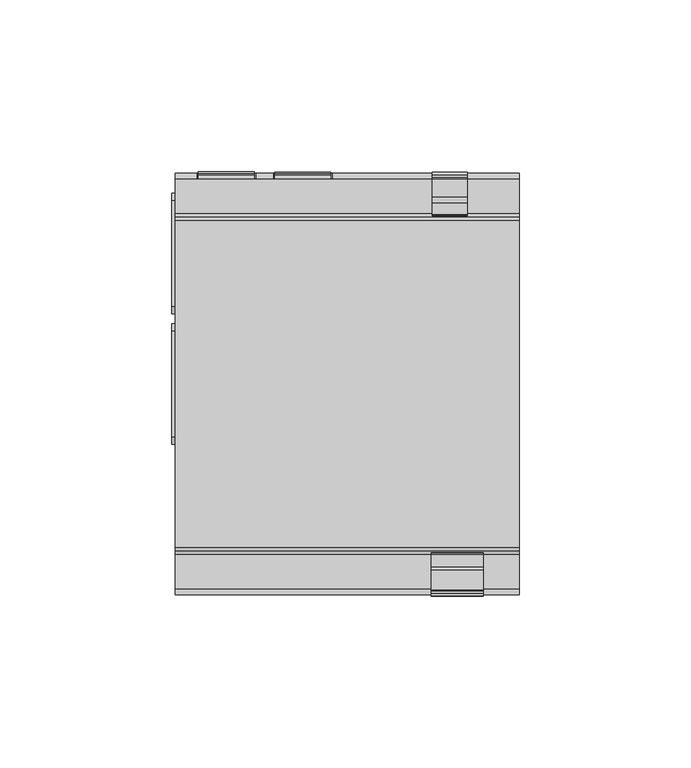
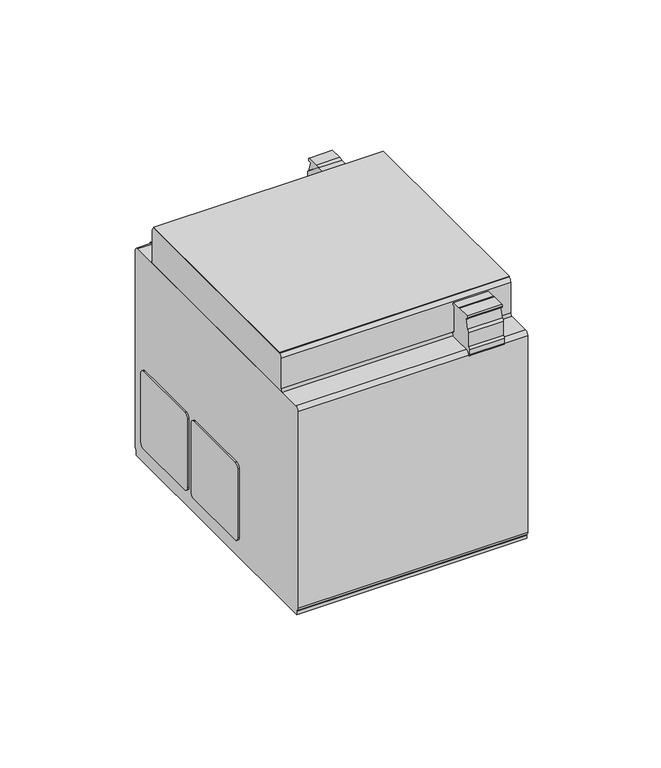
"""IFC4 building model written with IfcOpenShell, lengths in millimetres: proxy geometry, SDC-M 12V 3G DIN2 RS : SDC-M 12V 3G DIN2 RS."""

from ifc_helpers import new_model, si_unit, point, frame, frame_2d, origin, place, context, project, spatial, polyline, circle_curve, trimmed, segment, composite_curve, outline, extrude, faceted_brep, source, transform, mapped, element, save
from ifc_brep_helpers import plane_surface, cylinder_surface, advanced_brep


def electrical_equipment_22382a5e(model_context):
    return source(origin(), model_context, "Body", "SolidModel", [
        faceted_brep([(-50.3146317, -40.2597523, 112.75), (49.6853683, -40.2597523, 112.75), (49.6853683, 54.7402477, 112.75), (-50.3146317, 54.7402477, 112.75), (-50.3146317, 54.7402477, 112.5), (49.6853683, 54.7402477, 112.5), (49.6853683, 53.9402477, 112.5), (49.6853683, -39.5772719, 112.5), (49.6853683, -40.2597523, 112.5), (-50.3146317, -40.2597523, 112.5), (-50.3146317, -39.5772719, 112.5), (-50.3146317, 53.9402477, 112.5)], [[[0, 1, 2, 3]], [[4, 5, 6, 7, 8, 9, 10, 11]], [[1, 0, 9, 8]], [[2, 1, 8, 7, 6, 5]], [[3, 2, 5, 4]], [[0, 3, 4, 11, 10, 9]]]),
        extrude(outline(composite_curve([segment(polyline([(56.7402477, 95.6), (-42.2597523, 95.6)]), True, "CONTINUOUS"), segment(trimmed(circle_curve(frame_2d((-42.2597523, 96.6)), 1.0), [point((-42.2597523, 95.6))], [point((-41.2597523, 96.6))], True, "CARTESIAN"), True, "CONTINUOUS"), segment(polyline([(-41.2597523, 96.6), (-41.2597523, 110.6314162)]), True, "CONTINUOUS"), segment(trimmed(circle_curve(frame_2d((-39.443734, 110.6880139)), 1.8169001), [point((-41.2597523, 110.6314162))], [point((-39.5772719, 112.5))], False, "CARTESIAN"), True, "CONTINUOUS"), segment(polyline([(-39.5772719, 112.5), (53.9402477, 112.5)]), True, "CONTINUOUS"), segment(trimmed(circle_curve(frame_2d((53.9402477, 110.7)), 1.8), [point((53.9402477, 112.5))], [point((55.7402477, 110.7))], False, "CARTESIAN"), True, "CONTINUOUS"), segment(polyline([(55.7402477, 110.7), (55.7402477, 96.6)]), True, "CONTINUOUS"), segment(trimmed(circle_curve(frame_2d((56.7402477, 96.6)), 1.0), [point((55.7402477, 96.6))], [point((56.7402477, 95.6))], True, "CARTESIAN"), True, "CONTINUOUS")], self_intersect=False)), frame((-50.3146317, 0.0, 0.0), z_axis=(1.0, 0.0, 0.0), x_axis=(0.0, 1.0, 0.0)), (0.0, 0.0, 1.0), 100.0),
        extrude(outline(composite_curve([segment(polyline([(61.5925701, 111.07), (66.977955, 111.07)]), True, "CONTINUOUS"), segment(trimmed(circle_curve(frame_2d((66.2861586, 110.3582814)), 0.992535), [point((66.977955, 111.07))], [point((66.8892656, 109.57))], False, "CARTESIAN"), True, "CONTINUOUS"), segment(polyline([(66.8892656, 109.57), (65.877955, 109.57), (67.0309554, 105.2669438)]), True, "CONTINUOUS"), segment(trimmed(circle_curve(frame_2d((66.4695429, 103.84)), 1.5334122), [point((67.0309554, 105.2669438))], [point((68.002955, 103.84))], False, "CARTESIAN"), True, "CONTINUOUS"), segment(polyline([(68.002955, 103.84), (68.002955, 97.6942542)]), True, "CONTINUOUS"), segment(trimmed(circle_curve(frame_2d((69.5410007, 98.4684748)), 1.7219181), [point((68.002955, 97.6942542))], [point((68.8058426, 96.9113799))], True, "CARTESIAN"), True, "CONTINUOUS"), segment(polyline([(68.8058426, 96.9113799), (68.8058426, 93.6358813), (67.297955, 93.37), (58.2813391, 93.37), (56.197955, 93.6053488), (56.197955, 96.6274333)]), True, "CONTINUOUS"), segment(trimmed(circle_curve(frame_2d((57.0691961, 96.4948595)), 0.88127), [point((56.197955, 96.6274333))], [point((57.172955, 97.37))], False, "CARTESIAN"), True, "CONTINUOUS"), segment(polyline([(57.172955, 97.37), (57.172955, 108.5084691)]), True, "CONTINUOUS"), segment(trimmed(circle_curve(frame_2d((56.5356003, 108.8574423)), 0.7266384), [point((57.172955, 108.5084691))], [point((56.677955, 109.57))], True, "CARTESIAN"), True, "CONTINUOUS"), segment(trimmed(circle_curve(frame_2d((57.137021, 110.1612762)), 0.7485647), [point((56.677955, 109.57))], [point((56.677955, 110.7525524))], False, "CARTESIAN"), True, "CONTINUOUS"), segment(polyline([(56.677955, 110.7525524), (60.0085378, 110.7525524)]), True, "CONTINUOUS"), segment(trimmed(circle_curve(frame_2d((61.5925701, 106.9591927)), 4.1108073), [point((60.0085378, 110.7525524))], [point((61.5925701, 111.07))], False, "CARTESIAN"), True, "CONTINUOUS")], self_intersect=False), holes=[composite_curve([segment(polyline([(68.5402477, 93.9367188), (68.5402477, 95.6), (66.7402477, 95.6)]), True, "CONTINUOUS"), segment(trimmed(circle_curve(frame_2d((66.7402477, 93.794381)), 1.805619), [point((66.7402477, 95.6))], [point((68.5402477, 93.9367188))], False, "CARTESIAN"), True, "CONTINUOUS")], self_intersect=False)]), frame((24.3953683, 0.0, 0.0), z_axis=(1.0, 0.0, 0.0), x_axis=(0.0, 1.0, 0.0)), (0.0, 0.0, 1.0), 10.2),
        advanced_brep(
        [(-43.6073283, 68.5402477, 93.9367188), (-27.3073283, 68.5402477, 93.9367188), (-27.3073283, 68.5402477, 94.9), (-43.6073283, 68.5402477, 94.9), (-43.6073283, 68.1677863, 94.9), (-27.3073283, 68.1677863, 94.9), (-27.3073283, 53.0602477, 81.4), (-27.3073283, 53.0602477, 94.9), (-43.6073283, 53.0602477, 94.9), (-43.6073283, 53.0602477, 81.4), (-39.1073283, 53.0602477, 93.7), (-31.8073283, 53.0602477, 93.7), (-31.8073283, 53.0602477, 91.04), (-29.3073283, 53.0602477, 91.04), (-29.3073283, 53.0602477, 83.75), (-41.6073283, 53.0602477, 83.75), (-41.6073283, 53.0602477, 91.04), (-39.1073283, 53.0602477, 91.04), (-27.3073283, 68.9402477, 81.4), (-43.6073283, 68.9402477, 81.4), (-43.6073283, 68.9402477, 94.9), (-27.3073283, 68.9402477, 94.9), (-39.1073283, 68.9402477, 93.7), (-39.1073283, 68.9402477, 91.04), (-41.6073283, 68.9402477, 91.04), (-41.6073283, 68.9402477, 83.75), (-29.3073283, 68.9402477, 83.75), (-29.3073283, 68.9402477, 91.04), (-31.8073283, 68.9402477, 91.04), (-31.8073283, 68.9402477, 93.7)],
        [
            (0, 1),
            (1, 2),
            (2, 3),
            (3, 0),
            (0, 4, circle_curve(frame((-43.6073283, 66.7402477, 93.794381), z_axis=(1.0, 0.0, 0.0), x_axis=(0.0, 1.0, 0.0)), 1.805619)),
            (4, 5),
            (5, 1, circle_curve(frame((-27.3073283, 66.7402477, 93.794381), z_axis=(-1.0, 0.0, 0.0), x_axis=(0.0, 1.0, 0.0)), 1.805619)),
            (6, 7),
            (7, 8),
            (8, 9),
            (9, 6),
            (10, 11),
            (11, 12),
            (12, 13),
            (13, 14),
            (14, 15),
            (15, 16),
            (16, 17),
            (17, 10),
            (18, 19),
            (19, 20),
            (20, 21),
            (21, 18),
            (22, 23),
            (23, 24),
            (24, 25),
            (25, 26),
            (26, 27),
            (27, 28),
            (28, 29),
            (29, 22),
            (9, 19),
            (18, 6),
            (8, 4),
            (3, 20),
            (7, 5),
            (2, 21),
            (17, 23),
            (22, 10),
            (16, 24),
            (15, 25),
            (14, 26),
            (13, 27),
            (12, 28),
            (11, 29),
        ],
        [
            plane_surface(frame((-50.3146317, 68.5402477, 95.6), z_axis=(0.0, -1.0, 0.0), x_axis=(1.0, 0.0, 0.0))),
            cylinder_surface(frame((49.6853683, 66.7402477, 93.794381), z_axis=(1.0, 0.0, 0.0), x_axis=(0.0, 1.0, 0.0)), 1.805619),
            plane_surface(frame((-27.3073283, 53.0602477, 81.4), z_axis=(0.0, -1.0, 0.0), x_axis=(1.0, 0.0, 0.0))),
            plane_surface(frame((-27.3073283, 68.9402477, 81.4), z_axis=(0.0, 1.0, 0.0), x_axis=(-1.0, 0.0, 0.0))),
            plane_surface(frame((-27.3073283, 68.9402477, 81.4), z_axis=(0.0, 0.0, -1.0), x_axis=(0.0, -1.0, 0.0))),
            plane_surface(frame((-43.6073283, 68.9402477, 81.4), z_axis=(-1.0, 0.0, 0.0), x_axis=(0.0, -1.0, 0.0))),
            plane_surface(frame((-43.6073283, 68.9402477, 94.9), z_axis=(0.0, 0.0, 1.0), x_axis=(0.0, -1.0, 0.0))),
            plane_surface(frame((-27.3073283, 68.9402477, 94.9), z_axis=(1.0, 0.0, 0.0), x_axis=(0.0, -1.0, 0.0))),
            plane_surface(frame((-39.1073283, 68.9402477, 93.7), z_axis=(1.0, 0.0, 0.0), x_axis=(0.0, -1.0, 0.0))),
            plane_surface(frame((-39.1073283, 68.9402477, 91.04), z_axis=(0.0, 0.0, -1.0), x_axis=(0.0, -1.0, 0.0))),
            plane_surface(frame((-41.6073283, 68.9402477, 91.04), z_axis=(1.0, 0.0, 0.0), x_axis=(0.0, -1.0, 0.0))),
            plane_surface(frame((-41.6073283, 68.9402477, 83.75), z_axis=(0.0, 0.0, 1.0), x_axis=(0.0, -1.0, 0.0))),
            plane_surface(frame((-29.3073283, 68.9402477, 83.75), z_axis=(-1.0, 0.0, 0.0), x_axis=(0.0, -1.0, 0.0))),
            plane_surface(frame((-29.3073283, 68.9402477, 91.04), z_axis=(0.0, 0.0, -1.0), x_axis=(0.0, -1.0, 0.0))),
            plane_surface(frame((-31.8073283, 68.9402477, 91.04), z_axis=(-1.0, 0.0, 0.0), x_axis=(0.0, -1.0, 0.0))),
            plane_surface(frame((-31.8073283, 68.9402477, 93.7), z_axis=(0.0, 0.0, -1.0), x_axis=(0.0, -1.0, 0.0))),
        ],
        [
            (0, [[1, 2, 3, 4]]),
            (1, [[-1, 5, 6, 7]]),
            (2, [[8, 9, 10, 11], [12, 13, 14, 15, 16, 17, 18, 19]]),
            (3, [[20, 21, 22, 23], [24, 25, 26, 27, 28, 29, 30, 31]]),
            (4, [[-11, 32, -20, 33]]),
            (5, [[-10, 34, -5, -4, 35, -21, -32]]),
            (6, [[-9, 36, -6, -34]]),
            (6, [[-22, -35, -3, 37]]),
            (7, [[-8, -33, -23, -37, -2, -7, -36]]),
            (8, [[-19, 38, -24, 39]]),
            (9, [[-18, 40, -25, -38]]),
            (10, [[-17, 41, -26, -40]]),
            (11, [[-16, 42, -27, -41]]),
            (12, [[-15, 43, -28, -42]]),
            (13, [[-14, 44, -29, -43]]),
            (14, [[-13, 45, -30, -44]]),
            (15, [[-12, -39, -31, -45]]),
        ],
    ),
        advanced_brep(
        [(-21.3146317, 68.5402477, 93.9367188), (-5.0146317, 68.5402477, 93.9367188), (-5.0146317, 68.5402477, 94.9), (-21.3146317, 68.5402477, 94.9), (-21.3146317, 68.1677863, 94.9), (-5.0146317, 68.1677863, 94.9), (-5.0146317, 53.0602477, 81.4), (-5.0146317, 53.0602477, 94.9), (-21.3146317, 53.0602477, 94.9), (-21.3146317, 53.0602477, 81.4), (-16.8146317, 53.0602477, 93.7), (-9.5146317, 53.0602477, 93.7), (-9.5146317, 53.0602477, 91.04), (-7.0146317, 53.0602477, 91.04), (-7.0146317, 53.0602477, 83.75), (-19.3146317, 53.0602477, 83.75), (-19.3146317, 53.0602477, 91.04), (-16.8146317, 53.0602477, 91.04), (-5.0146317, 68.8602477, 81.4), (-21.3146317, 68.8602477, 81.4), (-21.3146317, 68.8602477, 94.9), (-5.0146317, 68.8602477, 94.9), (-16.8146317, 68.8602477, 93.7), (-16.8146317, 68.8602477, 91.04), (-19.3146317, 68.8602477, 91.04), (-19.3146317, 68.8602477, 83.75), (-7.0146317, 68.8602477, 83.75), (-7.0146317, 68.8602477, 91.04), (-9.5146317, 68.8602477, 91.04), (-9.5146317, 68.8602477, 93.7)],
        [
            (0, 1),
            (1, 2),
            (2, 3),
            (3, 0),
            (0, 4, circle_curve(frame((-21.3146317, 66.7402477, 93.794381), z_axis=(1.0, 0.0, 0.0), x_axis=(0.0, 1.0, 0.0)), 1.805619)),
            (4, 5),
            (5, 1, circle_curve(frame((-5.0146317, 66.7402477, 93.794381), z_axis=(-1.0, 0.0, 0.0), x_axis=(0.0, 1.0, 0.0)), 1.805619)),
            (6, 7),
            (7, 8),
            (8, 9),
            (9, 6),
            (10, 11),
            (11, 12),
            (12, 13),
            (13, 14),
            (14, 15),
            (15, 16),
            (16, 17),
            (17, 10),
            (18, 19),
            (19, 20),
            (20, 21),
            (21, 18),
            (22, 23),
            (23, 24),
            (24, 25),
            (25, 26),
            (26, 27),
            (27, 28),
            (28, 29),
            (29, 22),
            (9, 19),
            (18, 6),
            (8, 4),
            (3, 20),
            (7, 5),
            (2, 21),
            (17, 23),
            (22, 10),
            (16, 24),
            (15, 25),
            (14, 26),
            (13, 27),
            (12, 28),
            (11, 29),
        ],
        [
            plane_surface(frame((-50.3146317, 68.5402477, 95.6), z_axis=(0.0, -1.0, 0.0), x_axis=(1.0, 0.0, 0.0))),
            cylinder_surface(frame((49.6853683, 66.7402477, 93.794381), z_axis=(1.0, 0.0, 0.0), x_axis=(0.0, 1.0, 0.0)), 1.805619),
            plane_surface(frame((-5.0146317, 53.0602477, 81.4), z_axis=(0.0, -1.0, 0.0), x_axis=(1.0, 0.0, 0.0))),
            plane_surface(frame((-5.0146317, 68.8602477, 81.4), z_axis=(0.0, 1.0, 0.0), x_axis=(-1.0, 0.0, 0.0))),
            plane_surface(frame((-5.0146317, 68.8602477, 81.4), z_axis=(0.0, 0.0, -1.0), x_axis=(0.0, -1.0, 0.0))),
            plane_surface(frame((-21.3146317, 68.8602477, 81.4), z_axis=(-1.0, 0.0, 0.0), x_axis=(0.0, -1.0, 0.0))),
            plane_surface(frame((-21.3146317, 68.8602477, 94.9), z_axis=(0.0, 0.0, 1.0), x_axis=(0.0, -1.0, 0.0))),
            plane_surface(frame((-5.0146317, 68.8602477, 94.9), z_axis=(1.0, 0.0, 0.0), x_axis=(0.0, -1.0, 0.0))),
            plane_surface(frame((-16.8146317, 68.8602477, 93.7), z_axis=(1.0, 0.0, 0.0), x_axis=(0.0, -1.0, 0.0))),
            plane_surface(frame((-16.8146317, 68.8602477, 91.04), z_axis=(0.0, 0.0, -1.0), x_axis=(0.0, -1.0, 0.0))),
            plane_surface(frame((-19.3146317, 68.8602477, 91.04), z_axis=(1.0, 0.0, 0.0), x_axis=(0.0, -1.0, 0.0))),
            plane_surface(frame((-19.3146317, 68.8602477, 83.75), z_axis=(0.0, 0.0, 1.0), x_axis=(0.0, -1.0, 0.0))),
            plane_surface(frame((-7.0146317, 68.8602477, 83.75), z_axis=(-1.0, 0.0, 0.0), x_axis=(0.0, -1.0, 0.0))),
            plane_surface(frame((-7.0146317, 68.8602477, 91.04), z_axis=(0.0, 0.0, -1.0), x_axis=(0.0, -1.0, 0.0))),
            plane_surface(frame((-9.5146317, 68.8602477, 91.04), z_axis=(-1.0, 0.0, 0.0), x_axis=(0.0, -1.0, 0.0))),
            plane_surface(frame((-9.5146317, 68.8602477, 93.7), z_axis=(0.0, 0.0, -1.0), x_axis=(0.0, -1.0, 0.0))),
        ],
        [
            (0, [[1, 2, 3, 4]]),
            (1, [[-1, 5, 6, 7]]),
            (2, [[8, 9, 10, 11], [12, 13, 14, 15, 16, 17, 18, 19]]),
            (3, [[20, 21, 22, 23], [24, 25, 26, 27, 28, 29, 30, 31]]),
            (4, [[-11, 32, -20, 33]]),
            (5, [[-10, 34, -5, -4, 35, -21, -32]]),
            (6, [[-9, 36, -6, -34]]),
            (6, [[-22, -35, -3, 37]]),
            (7, [[-8, -33, -23, -37, -2, -7, -36]]),
            (8, [[-19, 38, -24, 39]]),
            (9, [[-18, 40, -25, -38]]),
            (10, [[-17, 41, -26, -40]]),
            (11, [[-16, 42, -27, -41]]),
            (12, [[-15, 43, -28, -42]]),
            (13, [[-14, 44, -29, -43]]),
            (14, [[-13, 45, -30, -44]]),
            (15, [[-12, -39, -31, -45]]),
        ],
    ),
        extrude(outline(composite_curve([segment(polyline([(-46.0261161, 110.77), (-42.3671575, 110.77)]), True, "CONTINUOUS"), segment(trimmed(circle_curve(frame_2d((-42.7941878, 110.1176491)), 0.7796901), [point((-42.3671575, 110.77))], [point((-42.0310165, 109.9580051))], False, "CARTESIAN"), True, "CONTINUOUS"), segment(trimmed(circle_curve(frame_2d((-42.6279456, 110.2238127)), 0.6534355), [point((-42.0310165, 109.9580051))], [point((-42.8224597, 109.6))], False, "CARTESIAN"), True, "CONTINUOUS"), segment(polyline([(-42.8224597, 109.6), (-42.8224597, 97.4)]), True, "CONTINUOUS"), segment(trimmed(circle_curve(frame_2d((-42.6187437, 96.6158374)), 0.8101921), [point((-42.8224597, 97.4))], [point((-41.8474597, 96.8638943))], False, "CARTESIAN"), True, "CONTINUOUS"), segment(polyline([(-41.8474597, 96.8638943), (-41.8474597, 94.4), (-52.2597523, 94.4), (-53.2129408, 93.4468115), (-54.0570729, 93.575975)]), True, "CONTINUOUS"), segment(trimmed(circle_curve(frame_2d((-53.9812927, 94.071227)), 0.5010162), [point((-54.0570729, 93.575975))], [point((-54.4474597, 94.2548177))], False, "CARTESIAN"), True, "CONTINUOUS"), segment(polyline([(-54.4474597, 94.2548177), (-54.4474597, 96.605)]), True, "CONTINUOUS"), segment(trimmed(circle_curve(frame_2d((-53.6524597, 96.605)), 0.795), [point((-54.4474597, 96.605))], [point((-53.6524597, 97.4))], False, "CARTESIAN"), True, "CONTINUOUS"), segment(polyline([(-53.6524597, 97.4), (-53.6524597, 103.9565594)]), True, "CONTINUOUS"), segment(trimmed(circle_curve(frame_2d((-52.5710746, 103.9565594)), 1.0813851), [point((-53.6524597, 103.9565594))], [point((-52.7540361, 105.0223543))], False, "CARTESIAN"), True, "CONTINUOUS"), segment(polyline([(-52.7540361, 105.0223543), (-51.5274597, 109.6), (-52.4608777, 109.6)]), True, "CONTINUOUS"), segment(trimmed(circle_curve(frame_2d((-52.2607449, 110.2407053)), 0.671235), [point((-52.4608777, 109.6))], [point((-52.9274597, 110.3184733))], False, "CARTESIAN"), True, "CONTINUOUS"), segment(trimmed(circle_curve(frame_2d((-52.11704, 110.4557253)), 0.82196), [point((-52.9274597, 110.3184733))], [point((-52.6274597, 111.1))], False, "CARTESIAN"), True, "CONTINUOUS"), segment(polyline([(-52.6274597, 111.1), (-46.8049449, 111.1)]), True, "CONTINUOUS"), segment(trimmed(circle_curve(frame_2d((-46.8049449, 110.0159481)), 1.0840519), [point((-46.8049449, 111.1))], [point((-46.0261161, 110.77))], False, "CARTESIAN"), True, "CONTINUOUS")], self_intersect=False)), frame((24.1403683, 0.0, 0.0), z_axis=(1.0, 0.0, 0.0), x_axis=(0.0, 1.0, 0.0)), (0.0, 0.0, 1.0), 15.1751992),
        advanced_brep(
        [(-4.5146317, 66.7402477, 95.6), (-21.8146317, 66.7402477, 95.6), (-26.8146317, 66.7402477, 95.6), (-44.1146317, 66.7402477, 95.6), (-50.3146317, 66.7402477, 95.6), (-50.3146317, -52.3763019, 95.6), (49.6853683, -52.3763019, 95.6), (49.6853683, 66.7402477, 95.6), (49.6853683, 67.7402477, 0.0), (49.6853683, -53.2597523, 0.0), (-50.3146317, -53.2597523, 0.0), (-50.3146317, 67.7402477, 0.0), (49.6853683, 68.5402477, 3.3), (-50.3146317, 68.5402477, 3.3), (-50.3146317, 68.5402477, 93.8), (-44.1146317, 68.5402477, 93.8), (-44.1146317, 68.5402477, 80.5), (-26.8146317, 68.5402477, 80.5), (-26.8146317, 68.5402477, 93.8), (-21.8146317, 68.5402477, 93.8), (-21.8146317, 68.5402477, 80.5), (-4.5146317, 68.5402477, 80.5), (-4.5146317, 68.5402477, 93.8), (49.6853683, 68.5402477, 93.8), (-50.3146317, -53.2597523, 1.5), (-50.3146317, -52.2597523, 1.5), (-50.3146317, -54.0597523, 3.3), (-50.3146317, -54.0597523, 93.9165496), (-50.3146317, 66.7402477, 1.5), (-50.3146317, 67.7402477, 1.5), (49.6853683, -54.0597523, 3.3), (49.6853683, -54.0597523, 93.9165496), (49.6853683, 67.7402477, 1.5), (49.6853683, 66.7402477, 1.5), (49.6853683, -52.2597523, 1.5), (49.6853683, -53.2597523, 1.5), (-4.5146317, 66.7402477, 80.5), (-21.8146317, 66.7402477, 80.5), (-44.1146317, 66.7402477, 80.5), (-26.8146317, 66.7402477, 80.5)],
        [
            (0, 1),
            (1, 2),
            (2, 3),
            (3, 4),
            (4, 5),
            (5, 6),
            (6, 7),
            (7, 0),
            (8, 9),
            (9, 10),
            (10, 11),
            (11, 8),
            (12, 13),
            (13, 14),
            (14, 15),
            (15, 16),
            (16, 17),
            (17, 18),
            (18, 19),
            (19, 20),
            (20, 21),
            (21, 22),
            (22, 23),
            (23, 12),
            (10, 24),
            (24, 25),
            (25, 26, circle_curve(frame((-50.3146317, -52.2597523, 3.3), z_axis=(-1.0, 0.0, 0.0), x_axis=(0.0, 1.0, 0.0)), 1.8)),
            (26, 27),
            (27, 5, circle_curve(frame((-50.3146317, -52.3763019, 93.9165496), z_axis=(-1.0, 0.0, 0.0), x_axis=(0.0, 1.0, 0.0)), 1.6834504)),
            (4, 14, circle_curve(frame((-50.3146317, 66.7402477, 93.8), z_axis=(-1.0, 0.0, 0.0), x_axis=(0.0, 1.0, 0.0)), 1.8)),
            (13, 28, circle_curve(frame((-50.3146317, 66.7402477, 3.3), z_axis=(-1.0, 0.0, 0.0), x_axis=(0.0, 1.0, 0.0)), 1.8)),
            (28, 29),
            (29, 11),
            (26, 30),
            (30, 31),
            (31, 27),
            (8, 32),
            (32, 33),
            (33, 12, circle_curve(frame((49.6853683, 66.7402477, 3.3), z_axis=(1.0, 0.0, 0.0), x_axis=(0.0, 1.0, 0.0)), 1.8)),
            (23, 7, circle_curve(frame((49.6853683, 66.7402477, 93.8), z_axis=(1.0, 0.0, 0.0), x_axis=(0.0, 1.0, 0.0)), 1.8)),
            (6, 31, circle_curve(frame((49.6853683, -52.3763019, 93.9165496), z_axis=(1.0, 0.0, 0.0), x_axis=(0.0, 1.0, 0.0)), 1.6834504)),
            (30, 34, circle_curve(frame((49.6853683, -52.2597523, 3.3), z_axis=(1.0, 0.0, 0.0), x_axis=(0.0, 1.0, 0.0)), 1.8)),
            (34, 35),
            (35, 9),
            (25, 34),
            (24, 35),
            (29, 32),
            (28, 33),
            (0, 36),
            (36, 37),
            (37, 1),
            (38, 3),
            (2, 39),
            (39, 38),
            (37, 20),
            (19, 1, circle_curve(frame((-21.8146317, 66.7402477, 93.8), z_axis=(1.0, 0.0, 0.0), x_axis=(0.0, 1.0, 0.0)), 1.8)),
            (36, 21),
            (0, 22, circle_curve(frame((-4.5146317, 66.7402477, 93.8), z_axis=(-1.0, 0.0, 0.0), x_axis=(0.0, 1.0, 0.0)), 1.8)),
            (39, 17),
            (16, 38),
            (2, 18, circle_curve(frame((-26.8146317, 66.7402477, 93.8), z_axis=(-1.0, 0.0, 0.0), x_axis=(0.0, 1.0, 0.0)), 1.8)),
            (15, 3, circle_curve(frame((-44.1146317, 66.7402477, 93.8), z_axis=(1.0, 0.0, 0.0), x_axis=(0.0, 1.0, 0.0)), 1.8)),
        ],
        [
            plane_surface(frame((-50.3146317, 68.5402477, 95.6), z_axis=(0.0, 0.0, 1.0), x_axis=(-1.0, 0.0, 0.0))),
            plane_surface(frame((-50.3146317, 68.5402477, 0.0), z_axis=(0.0, 0.0, -1.0), x_axis=(1.0, 0.0, 0.0))),
            plane_surface(frame((49.6853683, 68.5402477, 95.6), z_axis=(0.0, 1.0, 0.0), x_axis=(0.0, 0.0, -1.0))),
            plane_surface(frame((-50.3146317, 68.5402477, 95.6), z_axis=(-1.0, 0.0, 0.0), x_axis=(0.0, 0.0, -1.0))),
            plane_surface(frame((-50.3146317, -54.0597523, 95.6), z_axis=(0.0, -1.0, 0.0), x_axis=(0.0, 0.0, -1.0))),
            plane_surface(frame((49.6853683, -54.0597523, 95.6), z_axis=(1.0, 0.0, 0.0), x_axis=(0.0, 0.0, -1.0))),
            cylinder_surface(frame((49.6853683, -52.2597523, 3.3), z_axis=(1.0, 0.0, 0.0), x_axis=(0.0, 1.0, 0.0)), 1.8),
            plane_surface(frame((-50.3146317, -52.2597523, 1.5), z_axis=(0.0, 0.0, 1.0), x_axis=(1.0, 0.0, 0.0))),
            plane_surface(frame((-50.3146317, -53.2597523, 1.5), z_axis=(0.0, -1.0, 0.0), x_axis=(1.0, 0.0, 0.0))),
            plane_surface(frame((-50.3146317, 67.7402477, 0.0), z_axis=(0.0, 1.0, 0.0), x_axis=(1.0, 0.0, 0.0))),
            plane_surface(frame((-50.3146317, 67.7402477, 1.5), z_axis=(0.0, 0.0, 1.0), x_axis=(1.0, 0.0, 0.0))),
            cylinder_surface(frame((49.6853683, 66.7402477, 3.3), z_axis=(1.0, 0.0, 0.0), x_axis=(0.0, 1.0, 0.0)), 1.8),
            plane_surface(frame((-21.8146317, 66.7402477, 95.6), z_axis=(0.0, 1.0, 0.0), x_axis=(0.0, 0.0, -1.0))),
            plane_surface(frame((-21.8146317, 66.7402477, 95.6), z_axis=(1.0, 0.0, 0.0), x_axis=(0.0, 1.0, 0.0))),
            plane_surface(frame((-21.8146317, 66.7402477, 80.5), z_axis=(0.0, 0.0, 1.0), x_axis=(0.0, 1.0, 0.0))),
            plane_surface(frame((-4.5146317, 66.7402477, 80.5), z_axis=(-1.0, 0.0, 0.0), x_axis=(0.0, 1.0, 0.0))),
            plane_surface(frame((-44.1146317, 66.7402477, 80.5), z_axis=(0.0, 0.0, 1.0), x_axis=(0.0, 1.0, 0.0))),
            plane_surface(frame((-26.8146317, 66.7402477, 80.5), z_axis=(-1.0, 0.0, 0.0), x_axis=(0.0, 1.0, 0.0))),
            plane_surface(frame((-44.1146317, 66.7402477, 95.6), z_axis=(1.0, 0.0, 0.0), x_axis=(0.0, 1.0, 0.0))),
            cylinder_surface(frame((49.6853683, -52.3763019, 93.9165496), z_axis=(1.0, 0.0, 0.0), x_axis=(0.0, 1.0, 0.0)), 1.6834504),
            cylinder_surface(frame((49.6853683, 66.7402477, 93.8), z_axis=(1.0, 0.0, 0.0), x_axis=(0.0, 1.0, 0.0)), 1.8),
        ],
        [
            (0, [[1, 2, 3, 4, 5, 6, 7, 8]]),
            (1, [[9, 10, 11, 12]]),
            (2, [[13, 14, 15, 16, 17, 18, 19, 20, 21, 22, 23, 24]]),
            (3, [[-11, 25, 26, 27, 28, 29, -5, 30, -14, 31, 32, 33]]),
            (4, [[34, 35, 36, -28]]),
            (5, [[-9, 37, 38, 39, -24, 40, -7, 41, -35, 42, 43, 44]]),
            (6, [[45, -42, -34, -27]]),
            (7, [[-45, -26, 46, -43]]),
            (8, [[-46, -25, -10, -44]]),
            (9, [[47, -37, -12, -33]]),
            (10, [[-47, -32, 48, -38]]),
            (11, [[-48, -31, -13, -39]]),
            (12, [[49, 50, 51, -1]]),
            (12, [[52, -3, 53, 54]]),
            (13, [[-51, 55, -20, 56]]),
            (14, [[-50, 57, -21, -55]]),
            (15, [[-49, 58, -22, -57]]),
            (16, [[-54, 59, -17, 60]]),
            (17, [[-53, 61, -18, -59]]),
            (18, [[-52, -60, -16, 62]]),
            (19, [[-6, -29, -36, -41]]),
            (20, [[-2, -56, -19, -61]]),
            (20, [[-4, -62, -15, -30]]),
            (20, [[-8, -40, -23, -58]]),
        ],
    ),
        extrude(outline(composite_curve([segment(trimmed(circle_curve(frame_2d((60.7402477, 41.125)), 2.0), [point((60.7402477, 43.125))], [point((62.7402477, 41.125))], False, "CARTESIAN"), True, "CONTINUOUS"), segment(polyline([(62.7402477, 41.125), (62.7402477, 9.5)]), True, "CONTINUOUS"), segment(trimmed(circle_curve(frame_2d((60.7402477, 9.5)), 2.0), [point((62.7402477, 9.5))], [point((60.7402477, 7.5))], False, "CARTESIAN"), True, "CONTINUOUS"), segment(polyline([(60.7402477, 7.5), (29.7402477, 7.5)]), True, "CONTINUOUS"), segment(trimmed(circle_curve(frame_2d((29.7402477, 9.5)), 2.0), [point((29.7402477, 7.5))], [point((27.7402477, 9.5))], False, "CARTESIAN"), True, "CONTINUOUS"), segment(polyline([(27.7402477, 9.5), (27.7402477, 41.125)]), True, "CONTINUOUS"), segment(trimmed(circle_curve(frame_2d((29.7402477, 41.125)), 2.0), [point((27.7402477, 41.125))], [point((29.7402477, 43.125))], False, "CARTESIAN"), True, "CONTINUOUS"), segment(polyline([(29.7402477, 43.125), (60.7402477, 43.125)]), True, "CONTINUOUS")], self_intersect=False)), frame((-51.3146317, 0.0, 0.0), z_axis=(1.0, 0.0, 0.0), x_axis=(0.0, 1.0, 0.0)), (0.0, 0.0, 1.0), 1.0),
        extrude(outline(composite_curve([segment(trimmed(circle_curve(frame_2d((22.7402477, 41.125)), 2.0), [point((22.7402477, 43.125))], [point((24.7402477, 41.125))], False, "CARTESIAN"), True, "CONTINUOUS"), segment(polyline([(24.7402477, 41.125), (24.7402477, 9.5)]), True, "CONTINUOUS"), segment(trimmed(circle_curve(frame_2d((22.7402477, 9.5)), 2.0), [point((24.7402477, 9.5))], [point((22.7402477, 7.5))], False, "CARTESIAN"), True, "CONTINUOUS"), segment(polyline([(22.7402477, 7.5), (-8.3609387, 7.5)]), True, "CONTINUOUS"), segment(trimmed(circle_curve(frame_2d((-8.3609387, 9.3988137)), 1.8988137), [point((-8.3609387, 7.5))], [point((-10.2597523, 9.3988137))], False, "CARTESIAN"), True, "CONTINUOUS"), segment(polyline([(-10.2597523, 9.3988137), (-10.2597523, 41.2599698)]), True, "CONTINUOUS"), segment(trimmed(circle_curve(frame_2d((-8.249553, 41.1091787)), 2.0158471), [point((-10.2597523, 41.2599698))], [point((-8.2393536, 43.125))], False, "CARTESIAN"), True, "CONTINUOUS"), segment(polyline([(-8.2393536, 43.125), (22.7402477, 43.125)]), True, "CONTINUOUS")], self_intersect=False)), frame((-51.3146317, 0.0, 0.0), z_axis=(1.0, 0.0, 0.0), x_axis=(0.0, 1.0, 0.0)), (0.0, 0.0, 1.0), 1.0),
        extrude(outline(composite_curve([segment(polyline([(-13.7597523, -8.0), (-13.7597523, -0.5380934)]), True, "CONTINUOUS"), segment(trimmed(circle_curve(frame_2d((-13.1780066, -0.5672452)), 0.5824757), [point((-13.7597523, -0.5380934))], [point((-13.0456783, 0.0))], False, "CARTESIAN"), True, "CONTINUOUS"), segment(polyline([(-13.0456783, 0.0), (35.7402477, 0.0)]), True, "CONTINUOUS"), segment(trimmed(circle_curve(frame_2d((35.6463032, -0.6038595)), 0.6111235), [point((35.7402477, 0.0))], [point((36.2402477, -0.7477409))], False, "CARTESIAN"), True, "CONTINUOUS"), segment(polyline([(36.2402477, -0.7477409), (36.2402477, -5.1112181)]), True, "CONTINUOUS"), segment(trimmed(circle_curve(frame_2d((35.4287101, -5.1979414)), 0.8161582), [point((36.2402477, -5.1112181))], [point((35.8306035, -5.9082905))], False, "CARTESIAN"), True, "CONTINUOUS"), segment(polyline([(35.8306035, -5.9082905), (33.8333207, -7.0382909)]), True, "CONTINUOUS"), segment(trimmed(circle_curve(frame_2d((33.4266558, -6.6086943)), 0.5915485), [point((33.8333207, -7.0382909))], [point((32.873562, -6.8184961))], False, "CARTESIAN"), True, "CONTINUOUS"), segment(polyline([(32.873562, -6.8184961), (32.4467757, -6.0792807), (23.8855848, -7.9333399)]), True, "CONTINUOUS"), segment(trimmed(circle_curve(frame_2d((24.5008559, -7.5482896)), 0.7258252), [point((23.8855848, -7.9333399))], [point((24.1734939, -6.9004808))], False, "CARTESIAN"), True, "CONTINUOUS"), segment(polyline([(24.1734939, -6.9004808), (33.1761702, -4.950811)]), True, "CONTINUOUS"), segment(trimmed(circle_curve(frame_2d((33.1761702, -4.2254055)), 0.7254055), [point((33.1761702, -4.950811))], [point((33.1761702, -3.5))], True, "CARTESIAN"), True, "CONTINUOUS"), segment(polyline([(33.1761702, -3.5), (-7.0948924, -3.5)]), True, "CONTINUOUS"), segment(trimmed(circle_curve(frame_2d((-7.2948634, -4.2130718)), 0.7405807), [point((-7.0948924, -3.5))], [point((-7.9380383, -3.84594))], True, "CARTESIAN"), True, "CONTINUOUS"), segment(polyline([(-7.9380383, -3.84594), (-10.9087638, -8.0056936)]), True, "CONTINUOUS"), segment(trimmed(circle_curve(frame_2d((-11.6533113, -7.6921106)), 0.8078894), [point((-10.9087638, -8.0056936))], [point((-11.6533113, -8.5))], False, "CARTESIAN"), True, "CONTINUOUS"), segment(polyline([(-11.6533113, -8.5), (-13.0456783, -8.5)]), True, "CONTINUOUS"), segment(trimmed(circle_curve(frame_2d((-13.2276634, -8.0)), 0.5320889), [point((-13.0456783, -8.5))], [point((-13.7597523, -8.0))], False, "CARTESIAN"), True, "CONTINUOUS")], self_intersect=False)), frame((-40.3146317, 0.0, 0.0), z_axis=(1.0, 0.0, 0.0), x_axis=(0.0, 1.0, 0.0)), (0.0, 0.0, 1.0), 80.0),
    ])


if __name__ == "__main__":
    model = new_model("IFC4")
    model_context = context("Model", 3, world=origin())
    ifc_project = project(units=[si_unit("LENGTHUNIT", "METRE", prefix="MILLI")], contexts=[model_context])
    site = spatial("IfcSite", under=ifc_project)
    building = spatial("IfcBuilding", under=site)
    placement = place(None, origin())
    electrical_equipment_shape = electrical_equipment_22382a5e(model_context)
    element("IfcBuildingElementProxy", 1, Name="SDC-M 12V 3G DIN2 RS : SDC-M 12V 3G DIN2 RS", ObjectType="SDC-M 12V 3G DIN2 RS : SDC-M 12V 3G DIN2 RS", at=placement, inside=building, context=model_context, shape_type="MappedRepresentation", body=[
        mapped(electrical_equipment_shape, transform((0.0, 0.0, 0.0), x_axis=(1.0, 0.0, 0.0), y_axis=(0.0, 1.0, 0.0), z_axis=(0.0, 0.0, 1.0))),
    ])
    save(model, "model.ifc")
